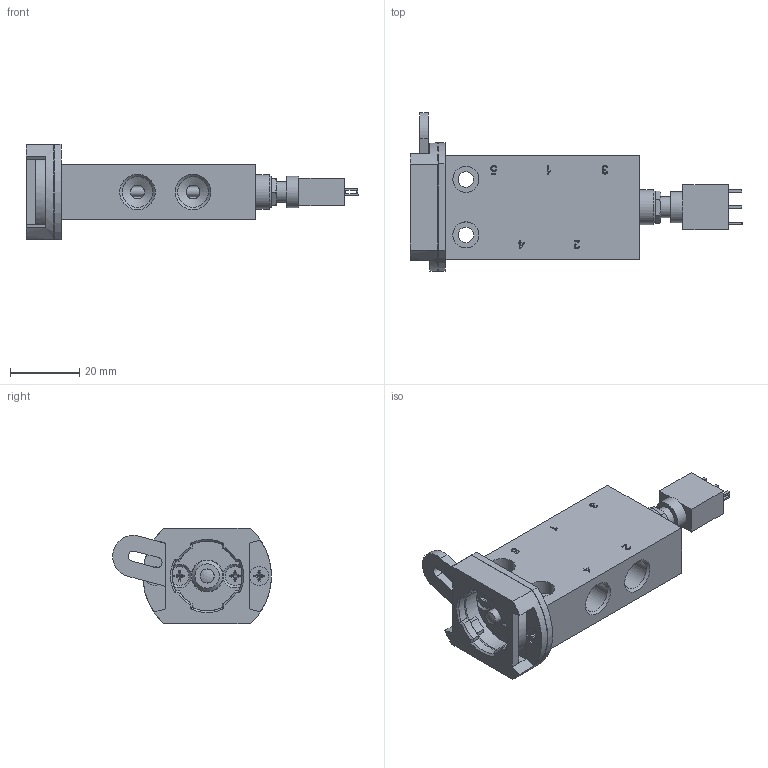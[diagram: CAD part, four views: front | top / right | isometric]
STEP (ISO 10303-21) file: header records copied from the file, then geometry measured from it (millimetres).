
FILE_DESCRIPTION( ( 'Unknown' ), '1' );
FILE_NAME( 'Q:/Solid Edge ST4/STEP/BAE 511 301.stp', 'Unknown', ( 'Unknown' ), ( 'Unknown' ), 'PSStep 17.0.49', 'Unknown', ' ' );
FILE_SCHEMA( ( 'AUTOMOTIVE_DESIGN { 1 0 10303 214 1 1 1 1 }' ) );
Length unit declared in the file: millimetre
Products named in the file (14): Assem1
Assembly tree (13 placements, depth 2):
  Assem1
    (unnamed)
    (unnamed)
    (unnamed)
    (unnamed)
    (unnamed)
    (unnamed)
    (unnamed)
    (unnamed)
    (unnamed)
    (unnamed)
    (unnamed)
    (unnamed)
    (unnamed)
Bounding box: 95.6 x 45.73 x 27.5 mm (x, y, z)
Surface area: 18386.9 mm2 (no closed solid volume)
Topology: 0 solids, 472 shells, 472 faces, 2135 edges, 2026 vertices
Faces by surface type: plane 294, cylinder 94, cone 59, extrusion 20, torus 4, sphere 1
Full cylindrical faces by diameter (mm): 2.459 x4, 2.8 x2, 3 x4, 3.1 x2, 3.2 x2, 4 x8, 4.05 x1, 4.5 x2, 5.188 x1, 5.5 x7, 5.6 x2, 6 x2, 7 x1, 7.5 x4, 8 x1, 8.05 x1, 8.06 x1, 8.8 x10, 9 x2, 9.2 x1, 10 x1, 20.1 x1, 24 x1
Entity records: 24382 total; most frequent: CARTESIAN_POINT 7054, DIRECTION 3292, ORIENTED_EDGE 1978, EDGE_CURVE 1978, VERTEX_POINT 1978, VECTOR 1336, LINE 1316, AXIS2_PLACEMENT_3D 978
